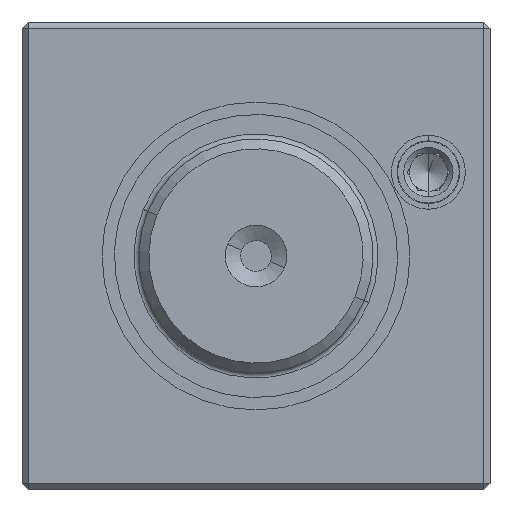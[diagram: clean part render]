
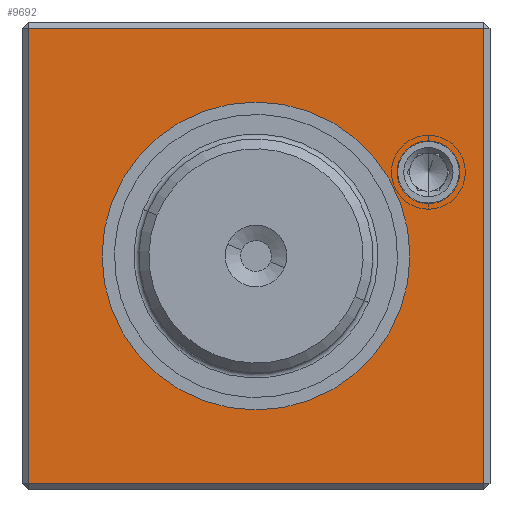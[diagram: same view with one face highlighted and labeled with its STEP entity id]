
A CAD part, left-side view. The second image highlights one B-rep face of the part: STEP entity #9692.
In plain terms, the highlighted planar face has unit normal (-1, 0, 0).
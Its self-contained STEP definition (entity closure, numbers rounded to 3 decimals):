
#8061 = EDGE_CURVE ( 'NONE', #10807, #10808, #27415, .T. ) ;
#8062 = EDGE_CURVE ( 'NONE', #10806, #10807, #27418, .T. ) ;
#8063 = EDGE_CURVE ( 'NONE', #10808, #10809, #27421, .T. ) ;
#8064 = EDGE_CURVE ( 'NONE', #10809, #10806, #27424, .T. ) ;
#8065 = EDGE_CURVE ( 'NONE', #10616, #10615, #20619, .T. ) ;
#8066 = EDGE_CURVE ( 'NONE', #10729, #10728, #20620, .T. ) ;
#8124 = EDGE_CURVE ( 'NONE', #10728, #10729, #20633, .T. ) ;
#8289 = EDGE_CURVE ( 'NONE', #10615, #10616, #20698, .T. ) ;
#9316 = ORIENTED_EDGE ( 'NONE', *, *, #8062, .T. ) ;
#9319 = ORIENTED_EDGE ( 'NONE', *, *, #8063, .T. ) ;
#9320 = ORIENTED_EDGE ( 'NONE', *, *, #8061, .T. ) ;
#9321 = ORIENTED_EDGE ( 'NONE', *, *, #8064, .T. ) ;
#9322 = ORIENTED_EDGE ( 'NONE', *, *, #8066, .F. ) ;
#9323 = ORIENTED_EDGE ( 'NONE', *, *, #8065, .F. ) ;
#9325 = ORIENTED_EDGE ( 'NONE', *, *, #8289, .F. ) ;
#9326 = ORIENTED_EDGE ( 'NONE', *, *, #8124, .F. ) ;
#9692 = ADVANCED_FACE ( 'NONE', ( #31210, #31208, #31215 ), #30920, .F. ) ;
#10615 = VERTEX_POINT ( 'NONE', #33367 ) ;
#10616 = VERTEX_POINT ( 'NONE', #33368 ) ;
#10728 = VERTEX_POINT ( 'NONE', #33563 ) ;
#10729 = VERTEX_POINT ( 'NONE', #33564 ) ;
#10806 = VERTEX_POINT ( 'NONE', #33641 ) ;
#10807 = VERTEX_POINT ( 'NONE', #33642 ) ;
#10808 = VERTEX_POINT ( 'NONE', #33643 ) ;
#10809 = VERTEX_POINT ( 'NONE', #33644 ) ;
#10845 = EDGE_LOOP ( 'NONE', ( #9316, #9320, #9319, #9321 ) ) ;
#10846 = EDGE_LOOP ( 'NONE', ( #9323, #9325 ) ) ;
#10847 = EDGE_LOOP ( 'NONE', ( #9322, #9326 ) ) ;
#20619 = CIRCLE ( 'NONE', #27553, 2.5 ) ;
#20620 = CIRCLE ( 'NONE', #27547, 12.5 ) ;
#20633 = CIRCLE ( 'NONE', #27930, 12.5 ) ;
#20698 = CIRCLE ( 'NONE', #28329, 2.5 ) ;
#27414 = CARTESIAN_POINT ( 'NONE',  ( 0., -14., 6.8 ) ) ;
#27415 = LINE ( 'NONE', #27416, #27554 ) ;
#27416 = CARTESIAN_POINT ( 'NONE',  ( 0., -19., -18.5 ) ) ;
#27417 = DIRECTION ( 'NONE',  ( 0., -1., 0. ) ) ;
#27418 = LINE ( 'NONE', #27419, #27555 ) ;
#27419 = CARTESIAN_POINT ( 'NONE',  ( 0., 18.5, 19. ) ) ;
#27420 = DIRECTION ( 'NONE',  ( 0., 0., -1. ) ) ;
#27421 = LINE ( 'NONE', #27422, #27556 ) ;
#27422 = CARTESIAN_POINT ( 'NONE',  ( 0., -18.5, 19. ) ) ;
#27423 = DIRECTION ( 'NONE',  ( 0., 0., 1. ) ) ;
#27424 = LINE ( 'NONE', #27425, #27558 ) ;
#27425 = CARTESIAN_POINT ( 'NONE',  ( 0., -19., 18.5 ) ) ;
#27426 = DIRECTION ( 'NONE',  ( 0., 1., 0. ) ) ;
#27427 = DIRECTION ( 'NONE',  ( -1., 0., 0. ) ) ;
#27428 = DIRECTION ( 'NONE',  ( 0., 0., 1. ) ) ;
#27429 = CARTESIAN_POINT ( 'NONE',  ( 0., 0., 0. ) ) ;
#27430 = DIRECTION ( 'NONE',  ( -1., 0., 0. ) ) ;
#27431 = DIRECTION ( 'NONE',  ( 0., -1., 0. ) ) ;
#27547 = AXIS2_PLACEMENT_3D ( 'NONE', #27429, #27430, #27431 ) ;
#27553 = AXIS2_PLACEMENT_3D ( 'NONE', #27414, #27427, #27428 ) ;
#27554 = VECTOR ( 'NONE', #27417, 1000. ) ;
#27555 = VECTOR ( 'NONE', #27420, 1000. ) ;
#27556 = VECTOR ( 'NONE', #27423, 1000. ) ;
#27558 = VECTOR ( 'NONE', #27426, 1000. ) ;
#27916 = CARTESIAN_POINT ( 'NONE',  ( 0., 0., 0. ) ) ;
#27917 = DIRECTION ( 'NONE',  ( -1., 0., 0. ) ) ;
#27930 = AXIS2_PLACEMENT_3D ( 'NONE', #27916, #27917, #27961 ) ;
#27961 = DIRECTION ( 'NONE',  ( 0., -1., 0. ) ) ;
#28329 = AXIS2_PLACEMENT_3D ( 'NONE', #28602, #28603, #28604 ) ;
#28602 = CARTESIAN_POINT ( 'NONE',  ( 0., -14., 6.8 ) ) ;
#28603 = DIRECTION ( 'NONE',  ( -1., 0., 0. ) ) ;
#28604 = DIRECTION ( 'NONE',  ( 0., 0., 1. ) ) ;
#30920 = PLANE ( 'NONE',  #31216 ) ;
#30921 = CARTESIAN_POINT ( 'NONE',  ( 0., -19., 19. ) ) ;
#30922 = DIRECTION ( 'NONE',  ( 1., 0., 0. ) ) ;
#30923 = DIRECTION ( 'NONE',  ( 0., 0., -1. ) ) ;
#31208 = FACE_BOUND ( 'NONE', #10846, .T. ) ;
#31210 = FACE_OUTER_BOUND ( 'NONE', #10845, .T. ) ;
#31215 = FACE_BOUND ( 'NONE', #10847, .T. ) ;
#31216 = AXIS2_PLACEMENT_3D ( 'NONE', #30921, #30922, #30923 ) ;
#33367 = CARTESIAN_POINT ( 'NONE',  ( 0., -14., 4.3 ) ) ;
#33368 = CARTESIAN_POINT ( 'NONE',  ( 0., -14., 9.3 ) ) ;
#33563 = CARTESIAN_POINT ( 'NONE',  ( 0., 12.5, 0. ) ) ;
#33564 = CARTESIAN_POINT ( 'NONE',  ( 0., -12.5, 0. ) ) ;
#33641 = CARTESIAN_POINT ( 'NONE',  ( 0., 18.5, 18.5 ) ) ;
#33642 = CARTESIAN_POINT ( 'NONE',  ( 0., 18.5, -18.5 ) ) ;
#33643 = CARTESIAN_POINT ( 'NONE',  ( 0., -18.5, -18.5 ) ) ;
#33644 = CARTESIAN_POINT ( 'NONE',  ( 0., -18.5, 18.5 ) ) ;
